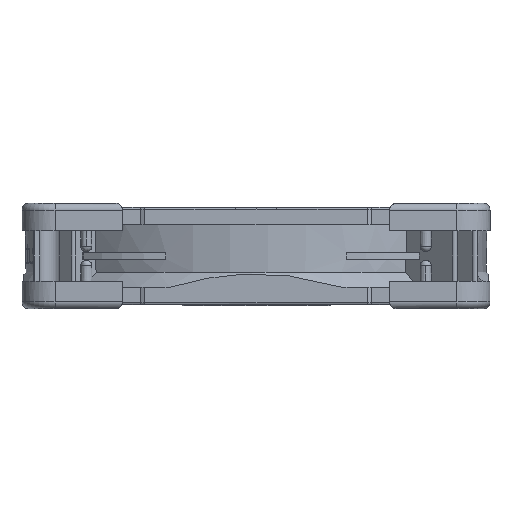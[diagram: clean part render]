
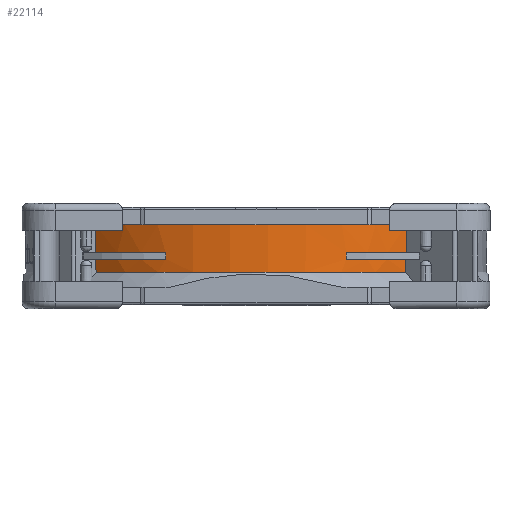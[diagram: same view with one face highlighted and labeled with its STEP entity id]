
A CAD part, front view. The second image highlights one B-rep face of the part: STEP entity #22114.
In plain terms, the highlighted conical face has half-angle 0.8 degrees and reference radius 59.189 mm.
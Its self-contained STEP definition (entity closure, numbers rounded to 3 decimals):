
#551=CONICAL_SURFACE('',#24384,59.189,0.014);
#1575=LINE('',#32749,#2632);
#1579=LINE('',#32757,#2636);
#1581=LINE('',#32762,#2638);
#1582=LINE('',#32767,#2639);
#2632=VECTOR('',#26870,1000.);
#2636=VECTOR('',#26874,1000.);
#2638=VECTOR('',#26878,1000.);
#2639=VECTOR('',#26879,1000.);
#3380=B_SPLINE_CURVE_WITH_KNOTS('',3,(#33766,#33767,#33768,#33769),
 .UNSPECIFIED.,.F.,.F.,(4,4),(0.,1.),.UNSPECIFIED.);
#3406=B_SPLINE_CURVE_WITH_KNOTS('',3,(#34203,#34204,#34205,#34206),
 .UNSPECIFIED.,.F.,.F.,(4,4),(0.,1.),.UNSPECIFIED.);
#7945=ORIENTED_EDGE('',*,*,#12019,.F.);
#7946=ORIENTED_EDGE('',*,*,#12870,.T.);
#7947=ORIENTED_EDGE('',*,*,#13171,.T.);
#7948=ORIENTED_EDGE('',*,*,#13279,.F.);
#7949=ORIENTED_EDGE('',*,*,#13168,.T.);
#7950=ORIENTED_EDGE('',*,*,#12872,.T.);
#7951=ORIENTED_EDGE('',*,*,#12669,.F.);
#7952=ORIENTED_EDGE('',*,*,#12868,.F.);
#7953=ORIENTED_EDGE('',*,*,#13161,.T.);
#7954=ORIENTED_EDGE('',*,*,#13167,.T.);
#7955=ORIENTED_EDGE('',*,*,#13166,.T.);
#7956=ORIENTED_EDGE('',*,*,#12864,.F.);
#12019=EDGE_CURVE('',#15459,#15454,#17613,.T.);
#12669=EDGE_CURVE('',#15889,#15890,#17829,.T.);
#12864=EDGE_CURVE('',#15454,#16053,#1575,.T.);
#12868=EDGE_CURVE('',#16056,#15889,#1579,.T.);
#12870=EDGE_CURVE('',#15459,#16058,#1581,.T.);
#12872=EDGE_CURVE('',#16059,#15890,#1582,.T.);
#13161=EDGE_CURVE('',#16056,#16208,#17983,.T.);
#13166=EDGE_CURVE('',#16210,#16053,#17985,.T.);
#13167=EDGE_CURVE('',#16208,#16210,#3380,.T.);
#13168=EDGE_CURVE('',#16211,#16059,#17986,.T.);
#13171=EDGE_CURVE('',#16058,#16212,#17989,.T.);
#13279=EDGE_CURVE('',#16211,#16212,#3406,.T.);
#15454=VERTEX_POINT('',#30205);
#15459=VERTEX_POINT('',#30221);
#15889=VERTEX_POINT('',#32121);
#15890=VERTEX_POINT('',#32123);
#16053=VERTEX_POINT('',#32750);
#16056=VERTEX_POINT('',#32756);
#16058=VERTEX_POINT('',#32761);
#16059=VERTEX_POINT('',#32768);
#16208=VERTEX_POINT('',#33754);
#16210=VERTEX_POINT('',#33763);
#16211=VERTEX_POINT('',#33772);
#16212=VERTEX_POINT('',#33776);
#17613=CIRCLE('',#23429,59.019);
#17829=CIRCLE('',#23861,59.189);
#17983=CIRCLE('',#24182,59.088);
#17985=CIRCLE('',#24186,59.066);
#17986=CIRCLE('',#24189,59.088);
#17989=CIRCLE('',#24193,59.066);
#18922=EDGE_LOOP('',(#7945,#7946,#7947,#7948,#7949,#7950,#7951,#7952,#7953,
#7954,#7955,#7956));
#20379=FACE_BOUND('',#18922,.T.);
#22114=ADVANCED_FACE('',(#20379),#551,.T.);
#23429=AXIS2_PLACEMENT_3D('',#30222,#25378,#25379);
#23861=AXIS2_PLACEMENT_3D('',#32122,#26607,#26608);
#24182=AXIS2_PLACEMENT_3D('',#33755,#27451,#27452);
#24186=AXIS2_PLACEMENT_3D('',#33764,#27462,#27463);
#24189=AXIS2_PLACEMENT_3D('',#33771,#27468,#27469);
#24193=AXIS2_PLACEMENT_3D('',#33777,#27476,#27477);
#24384=AXIS2_PLACEMENT_3D('',#34923,#27949,#27950);
#25378=DIRECTION('',(0.,0.,-1.));
#25379=DIRECTION('',(0.,1.,0.));
#26607=DIRECTION('',(0.,0.,1.));
#26608=DIRECTION('',(0.,-1.,0.));
#26870=DIRECTION('',(-0.01,-0.01,1.));
#26874=DIRECTION('',(-0.01,-0.01,1.));
#26878=DIRECTION('',(0.01,-0.01,1.));
#26879=DIRECTION('',(0.01,-0.01,1.));
#27451=DIRECTION('',(0.,0.,1.));
#27452=DIRECTION('',(0.,-1.,0.));
#27462=DIRECTION('',(0.,0.,-1.));
#27463=DIRECTION('',(0.,-1.,0.));
#27468=DIRECTION('',(0.,0.,1.));
#27469=DIRECTION('',(0.,-1.,0.));
#27476=DIRECTION('',(0.,0.,-1.));
#27477=DIRECTION('',(0.,-1.,0.));
#27949=DIRECTION('',(0.,0.,1.));
#27950=DIRECTION('',(0.,-1.,0.));
#30205=CARTESIAN_POINT('',(-41.02,-42.434,8.35));
#30221=CARTESIAN_POINT('',(38.429,-44.793,8.35));
#30222=CARTESIAN_POINT('',(0.,0.,8.35));
#32121=CARTESIAN_POINT('',(-41.14,-42.554,20.5));
#32122=CARTESIAN_POINT('',(0.,0.,20.5));
#32123=CARTESIAN_POINT('',(38.55,-44.914,20.5));
#32749=CARTESIAN_POINT('',(-41.02,-42.434,8.35));
#32750=CARTESIAN_POINT('',(-41.053,-42.467,11.7));
#32756=CARTESIAN_POINT('',(-41.069,-42.483,13.3));
#32757=CARTESIAN_POINT('',(-41.069,-42.483,13.3));
#32761=CARTESIAN_POINT('',(38.463,-44.827,11.7));
#32762=CARTESIAN_POINT('',(38.446,-44.81,10.025));
#32767=CARTESIAN_POINT('',(38.514,-44.878,16.9));
#32768=CARTESIAN_POINT('',(38.478,-44.842,13.3));
#33754=CARTESIAN_POINT('',(-23.17,-54.356,13.3));
#33755=CARTESIAN_POINT('',(0.,0.,13.3));
#33763=CARTESIAN_POINT('',(-23.108,-54.358,11.7));
#33764=CARTESIAN_POINT('',(0.,0.,11.7));
#33766=CARTESIAN_POINT('',(-23.17,-54.356,13.3));
#33767=CARTESIAN_POINT('',(-23.149,-54.357,12.767));
#33768=CARTESIAN_POINT('',(-23.128,-54.358,12.233));
#33769=CARTESIAN_POINT('',(-23.108,-54.358,11.7));
#33771=CARTESIAN_POINT('',(0.,0.,13.3));
#33772=CARTESIAN_POINT('',(23.17,-54.356,13.3));
#33776=CARTESIAN_POINT('',(23.108,-54.358,11.7));
#33777=CARTESIAN_POINT('',(0.,0.,11.7));
#34203=CARTESIAN_POINT('',(23.17,-54.356,13.3));
#34204=CARTESIAN_POINT('',(23.149,-54.357,12.767));
#34205=CARTESIAN_POINT('',(23.128,-54.358,12.233));
#34206=CARTESIAN_POINT('',(23.108,-54.358,11.7));
#34923=CARTESIAN_POINT('',(0.,0.,20.5));
